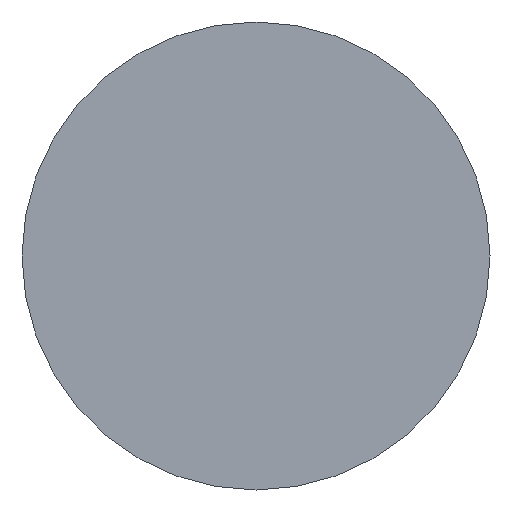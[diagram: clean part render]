
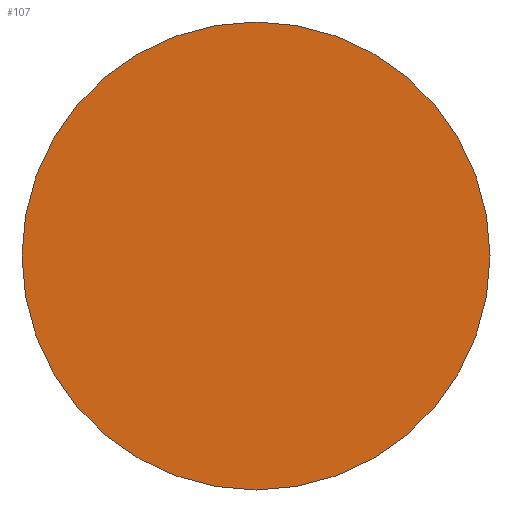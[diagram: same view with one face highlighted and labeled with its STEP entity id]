
A CAD part, left-side view. The second image highlights one B-rep face of the part: STEP entity #107.
In plain terms, the highlighted planar face has unit normal (-1, 0, 0).
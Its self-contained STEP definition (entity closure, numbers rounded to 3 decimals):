
#8 = VERTEX_POINT ( 'NONE', #181 ) ;
#19 = CIRCLE ( 'NONE', #96, 7. ) ;
#21 = AXIS2_PLACEMENT_3D ( 'NONE', #41, #183, #22 ) ;
#22 = DIRECTION ( 'NONE',  ( 0., 1., 0. ) ) ;
#41 = CARTESIAN_POINT ( 'NONE',  ( 0., 0., 0. ) ) ;
#43 = VERTEX_POINT ( 'NONE', #213 ) ;
#51 = ORIENTED_EDGE ( 'NONE', *, *, #224, .F. ) ;
#65 = DIRECTION ( 'NONE',  ( 0., -1., 0. ) ) ;
#81 = EDGE_LOOP ( 'NONE', ( #51, #166 ) ) ;
#96 = AXIS2_PLACEMENT_3D ( 'NONE', #155, #110, #133 ) ;
#107 = ADVANCED_FACE ( 'NONE', ( #118 ), #153, .T. ) ;
#110 = DIRECTION ( 'NONE',  ( 1., 0., 0. ) ) ;
#118 = FACE_OUTER_BOUND ( 'NONE', #81, .T. ) ;
#130 = AXIS2_PLACEMENT_3D ( 'NONE', #132, #232, #65 ) ;
#132 = CARTESIAN_POINT ( 'NONE',  ( 0., 0., 0. ) ) ;
#133 = DIRECTION ( 'NONE',  ( 0., 1., 0. ) ) ;
#153 = PLANE ( 'NONE',  #130 ) ;
#155 = CARTESIAN_POINT ( 'NONE',  ( 0., 0., 0. ) ) ;
#166 = ORIENTED_EDGE ( 'NONE', *, *, #200, .F. ) ;
#181 = CARTESIAN_POINT ( 'NONE',  ( 0., -7., 0. ) ) ;
#183 = DIRECTION ( 'NONE',  ( 1., 0., 0. ) ) ;
#200 = EDGE_CURVE ( 'NONE', #8, #43, #220, .T. ) ;
#213 = CARTESIAN_POINT ( 'NONE',  ( 0., 7., 0. ) ) ;
#220 = CIRCLE ( 'NONE', #21, 7. ) ;
#224 = EDGE_CURVE ( 'NONE', #43, #8, #19, .T. ) ;
#232 = DIRECTION ( 'NONE',  ( -1., 0., 0. ) ) ;
